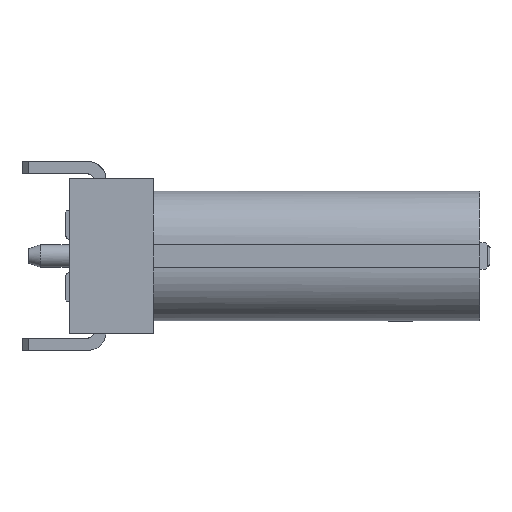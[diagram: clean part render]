
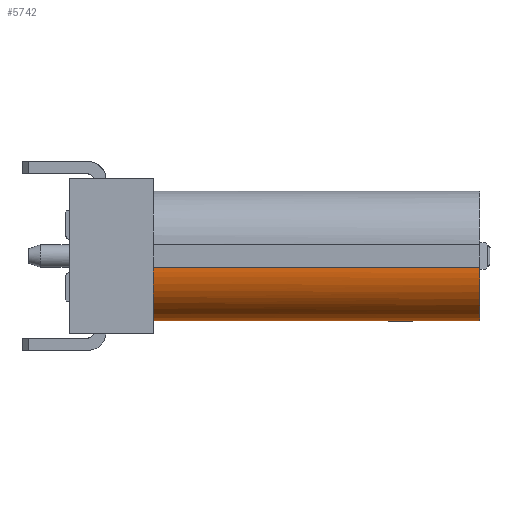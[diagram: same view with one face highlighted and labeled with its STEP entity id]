
A CAD part, left-side view. The second image highlights one B-rep face of the part: STEP entity #5742.
In plain terms, the highlighted free-form (B-spline) face has degree [1, 3] with [2, 4] control points.
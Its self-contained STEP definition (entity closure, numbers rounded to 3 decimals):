
#730 =( BOUNDED_CURVE ( )  B_SPLINE_CURVE ( 3, ( #99026, #83916, #44257, #52570 ),
 .UNSPECIFIED., .F., .F. ) 
 B_SPLINE_CURVE_WITH_KNOTS ( ( 4, 4 ),
 ( -1.571, 0. ),
 .UNSPECIFIED. ) 
 CURVE ( )  GEOMETRIC_REPRESENTATION_ITEM ( )  RATIONAL_B_SPLINE_CURVE ( ( 1., 0.805, 0.805, 1. ) ) 
 REPRESENTATION_ITEM ( '' )  );
#843 = EDGE_CURVE ( 'NONE', #23501, #44528, #61425, .T. ) ;
#2200 = B_SPLINE_CURVE_WITH_KNOTS ( 'NONE', 1,
 ( #27204, #82578 ),
 .UNSPECIFIED., .F., .F.,
 ( 2, 2 ),
 ( 0., 1. ),
 .UNSPECIFIED. ) ;
#5254 = VERTEX_POINT ( 'NONE', #38881 ) ;
#5742 = ADVANCED_FACE ( 'NONE', ( #97171 ), #40201, .F. ) ;
#6328 = ORIENTED_EDGE ( 'NONE', *, *, #6959, .F. ) ;
#6959 = EDGE_CURVE ( 'NONE', #11370, #23501, #85254, .T. ) ;
#8456 = CARTESIAN_POINT ( 'NONE',  ( -3.932, 8.2, -3.16 ) ) ;
#11370 = VERTEX_POINT ( 'NONE', #64253 ) ;
#17133 = CARTESIAN_POINT ( 'NONE',  ( -4.47, 8.2, -1.86 ) ) ;
#18303 = CARTESIAN_POINT ( 'NONE',  ( -4.47, 8.2, -1.86 ) ) ;
#23501 = VERTEX_POINT ( 'NONE', #52680 ) ;
#23865 = EDGE_CURVE ( 'NONE', #5254, #44528, #730, .T. ) ;
#25143 = CARTESIAN_POINT ( 'NONE',  ( -3.17, 8.2, -3.16 ) ) ;
#25642 = CARTESIAN_POINT ( 'NONE',  ( -3.848, 8.2, -3.021 ) ) ;
#27204 = CARTESIAN_POINT ( 'NONE',  ( -3.17, 0.25, -3.16 ) ) ;
#31969 = CARTESIAN_POINT ( 'NONE',  ( -3.17, 0.25, -3.16 ) ) ;
#32340 = EDGE_LOOP ( 'NONE', ( #92179, #39372, #94807, #6328 ) ) ;
#38881 = CARTESIAN_POINT ( 'NONE',  ( -3.17, 0.25, -3.16 ) ) ;
#39278 = CARTESIAN_POINT ( 'NONE',  ( -4.47, 8.2, -1.86 ) ) ;
#39372 = ORIENTED_EDGE ( 'NONE', *, *, #23865, .T. ) ;
#40201 =( BOUNDED_SURFACE ( )  B_SPLINE_SURFACE ( 1, 3, ( 
 ( #31969, #89375, #64330, #96675 ),
 ( #25143, #8456, #49189, #39278 ) ),
 .UNSPECIFIED., .F., .F., .F. ) 
 B_SPLINE_SURFACE_WITH_KNOTS ( ( 2, 2 ),
 ( 4, 4 ),
 ( 0., 1. ),
 ( 0., 1. ),
 .UNSPECIFIED. ) 
 GEOMETRIC_REPRESENTATION_ITEM ( )  RATIONAL_B_SPLINE_SURFACE ( (
 ( 1., 0.805, 0.805, 1.),
 ( 1., 0.805, 0.805, 1.) ) ) 
 REPRESENTATION_ITEM ( '' )  SURFACE ( )  );
#44257 = CARTESIAN_POINT ( 'NONE',  ( -4.47, 0.25, -2.622 ) ) ;
#44528 = VERTEX_POINT ( 'NONE', #45799 ) ;
#45799 = CARTESIAN_POINT ( 'NONE',  ( -4.47, 0.25, -1.86 ) ) ;
#49189 = CARTESIAN_POINT ( 'NONE',  ( -4.47, 8.2, -2.622 ) ) ;
#52570 = CARTESIAN_POINT ( 'NONE',  ( -4.47, 0.25, -1.86 ) ) ;
#52680 = CARTESIAN_POINT ( 'NONE',  ( -4.47, 8.2, -1.86 ) ) ;
#59042 = CARTESIAN_POINT ( 'NONE',  ( -4.331, 8.2, -2.538 ) ) ;
#61425 = B_SPLINE_CURVE_WITH_KNOTS ( 'NONE', 1,
 ( #17133, #89234 ),
 .UNSPECIFIED., .F., .F.,
 ( 2, 2 ),
 ( 0., 1. ),
 .UNSPECIFIED. ) ;
#64253 = CARTESIAN_POINT ( 'NONE',  ( -3.17, 8.2, -3.16 ) ) ;
#64330 = CARTESIAN_POINT ( 'NONE',  ( -4.47, 0.25, -2.622 ) ) ;
#73728 = EDGE_CURVE ( 'NONE', #5254, #11370, #2200, .T. ) ;
#82578 = CARTESIAN_POINT ( 'NONE',  ( -3.17, 8.2, -3.16 ) ) ;
#83916 = CARTESIAN_POINT ( 'NONE',  ( -3.932, 0.25, -3.16 ) ) ;
#85254 = B_SPLINE_CURVE_WITH_KNOTS ( 'NONE', 3,
 ( #98669, #89874, #25642, #59042, #90872, #18303 ),
 .UNSPECIFIED., .F., .F.,
 ( 4, 2, 4 ),
 ( 0., 0.785, 1.571 ),
 .UNSPECIFIED. ) ;
#89234 = CARTESIAN_POINT ( 'NONE',  ( -4.47, 0.25, -1.86 ) ) ;
#89375 = CARTESIAN_POINT ( 'NONE',  ( -3.932, 0.25, -3.16 ) ) ;
#89874 = CARTESIAN_POINT ( 'NONE',  ( -3.511, 8.2, -3.16 ) ) ;
#90872 = CARTESIAN_POINT ( 'NONE',  ( -4.47, 8.2, -2.201 ) ) ;
#92179 = ORIENTED_EDGE ( 'NONE', *, *, #73728, .F. ) ;
#94807 = ORIENTED_EDGE ( 'NONE', *, *, #843, .F. ) ;
#96675 = CARTESIAN_POINT ( 'NONE',  ( -4.47, 0.25, -1.86 ) ) ;
#97171 = FACE_OUTER_BOUND ( 'NONE', #32340, .T. ) ;
#98669 = CARTESIAN_POINT ( 'NONE',  ( -3.17, 8.2, -3.16 ) ) ;
#99026 = CARTESIAN_POINT ( 'NONE',  ( -3.17, 0.25, -3.16 ) ) ;
